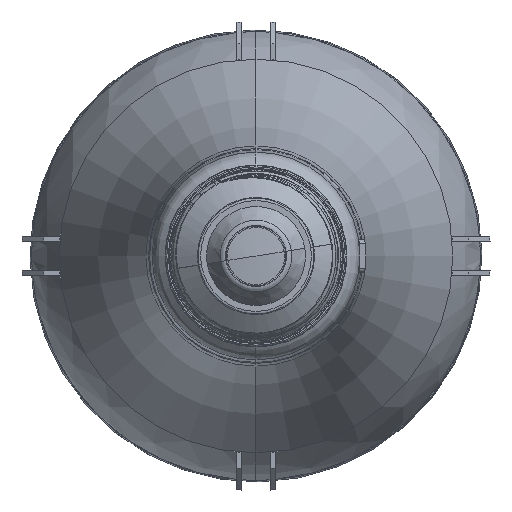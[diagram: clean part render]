
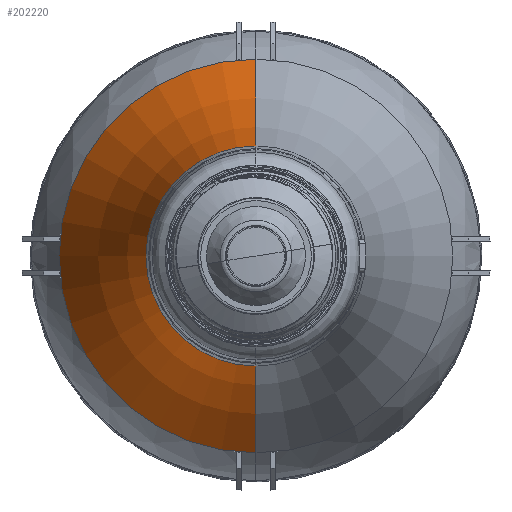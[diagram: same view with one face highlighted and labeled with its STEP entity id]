
A CAD part, front view. The second image highlights one B-rep face of the part: STEP entity #202220.
In plain terms, the highlighted toroidal (fillet/blend) face has major radius 125.573 mm and minor radius 110 mm.
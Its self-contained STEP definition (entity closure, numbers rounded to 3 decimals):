
#201781 = VERTEX_POINT('',#201782);
#201782 = CARTESIAN_POINT('',(0.,-32.222,
    -16.939));
#201789 = VERTEX_POINT('',#201790);
#201790 = CARTESIAN_POINT('',(0.,-32.222,16.939));
#202220 = ADVANCED_FACE('',(#202221),#202255,.F.);
#202221 = FACE_BOUND('',#202222,.F.);
#202222 = EDGE_LOOP('',(#202223,#202232,#202239,#202248));
#202223 = ORIENTED_EDGE('',*,*,#202224,.T.);
#202224 = EDGE_CURVE('',#202225,#201789,#202227,.T.);
#202225 = VERTEX_POINT('',#202226);
#202226 = CARTESIAN_POINT('',(0.,5.5,
    30.311));
#202227 = CIRCLE('',#202228,110.);
#202228 = AXIS2_PLACEMENT_3D('',#202229,#202230,#202231);
#202229 = CARTESIAN_POINT('',(0.,-49.5,125.574));
#202230 = DIRECTION('',(-1.,-0.,0.));
#202231 = DIRECTION('',(0.,0.,1.));
#202232 = ORIENTED_EDGE('',*,*,#202233,.F.);
#202233 = EDGE_CURVE('',#201781,#201789,#202234,.T.);
#202234 = CIRCLE('',#202235,16.939);
#202235 = AXIS2_PLACEMENT_3D('',#202236,#202237,#202238);
#202236 = CARTESIAN_POINT('',(0.,-32.222,0.));
#202237 = DIRECTION('',(-0.,1.,0.));
#202238 = DIRECTION('',(0.,0.,1.));
#202239 = ORIENTED_EDGE('',*,*,#202240,.F.);
#202240 = EDGE_CURVE('',#202241,#201781,#202243,.T.);
#202241 = VERTEX_POINT('',#202242);
#202242 = CARTESIAN_POINT('',(0.,5.5,-30.311));
#202243 = CIRCLE('',#202244,110.);
#202244 = AXIS2_PLACEMENT_3D('',#202245,#202246,#202247);
#202245 = CARTESIAN_POINT('',(0.,-49.5,
    -125.574));
#202246 = DIRECTION('',(1.,0.,0.));
#202247 = DIRECTION('',(0.,0.,-1.));
#202248 = ORIENTED_EDGE('',*,*,#202249,.T.);
#202249 = EDGE_CURVE('',#202241,#202225,#202250,.T.);
#202250 = CIRCLE('',#202251,30.311);
#202251 = AXIS2_PLACEMENT_3D('',#202252,#202253,#202254);
#202252 = CARTESIAN_POINT('',(0.,5.5,0.));
#202253 = DIRECTION('',(-0.,1.,0.));
#202254 = DIRECTION('',(0.,0.,1.));
#202255 = TOROIDAL_SURFACE('',#202256,125.574,110.);
#202256 = AXIS2_PLACEMENT_3D('',#202257,#202258,#202259);
#202257 = CARTESIAN_POINT('',(0.,-49.5,0.));
#202258 = DIRECTION('',(-0.,1.,0.));
#202259 = DIRECTION('',(0.,0.,1.));
